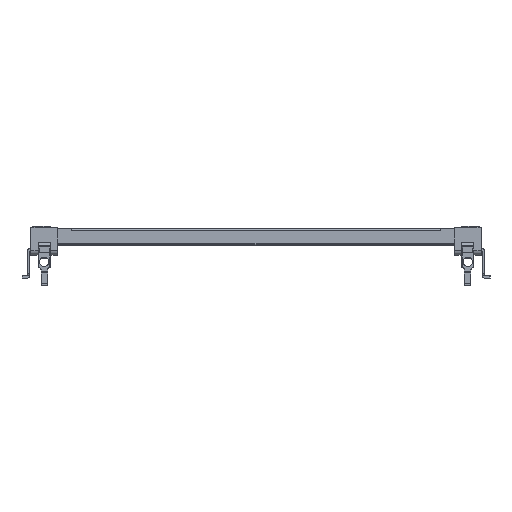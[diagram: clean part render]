
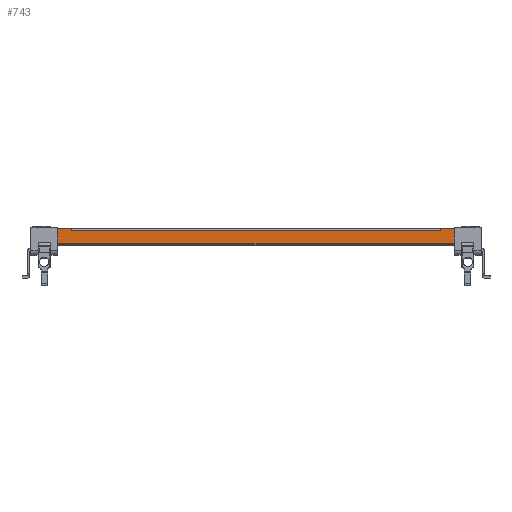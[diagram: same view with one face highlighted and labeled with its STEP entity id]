
A CAD part, front view. The second image highlights one B-rep face of the part: STEP entity #743.
In plain terms, the highlighted planar face has unit normal (0, -1, 0).
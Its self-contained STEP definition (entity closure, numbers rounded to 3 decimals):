
#75 = ORIENTED_EDGE ( 'NONE', *, *, #1768, .F. ) ;
#99 = EDGE_CURVE ( 'NONE', #9692, #5140, #7787, .T. ) ;
#481 = CARTESIAN_POINT ( 'NONE',  ( -303.5, -640., 3.5 ) ) ;
#599 = VECTOR ( 'NONE', #10260, 1000. ) ;
#743 = ADVANCED_FACE ( 'NONE', ( #10154 ), #8401, .F. ) ;
#840 = DIRECTION ( 'NONE',  ( 0., 0., 1. ) ) ;
#1064 = CARTESIAN_POINT ( 'NONE',  ( -283., -640., 26. ) ) ;
#1088 = VERTEX_POINT ( 'NONE', #9639 ) ;
#1297 = AXIS2_PLACEMENT_3D ( 'NONE', #7536, #6688, #840 ) ;
#1317 = LINE ( 'NONE', #2800, #7477 ) ;
#1412 = EDGE_CURVE ( 'NONE', #4876, #6664, #1317, .T. ) ;
#1570 = VECTOR ( 'NONE', #9596, 1000. ) ;
#1697 = ORIENTED_EDGE ( 'NONE', *, *, #5900, .F. ) ;
#1768 = EDGE_CURVE ( 'NONE', #9692, #4876, #2498, .T. ) ;
#2040 = LINE ( 'NONE', #9858, #3739 ) ;
#2389 = ORIENTED_EDGE ( 'NONE', *, *, #99, .T. ) ;
#2498 = LINE ( 'NONE', #4939, #4477 ) ;
#2505 = CARTESIAN_POINT ( 'NONE',  ( 303.5, -640., 28. ) ) ;
#2534 = EDGE_CURVE ( 'NONE', #6664, #9363, #3786, .T. ) ;
#2565 = VECTOR ( 'NONE', #2728, 1000. ) ;
#2728 = DIRECTION ( 'NONE',  ( 0., 0., 1. ) ) ;
#2800 = CARTESIAN_POINT ( 'NONE',  ( -303.5, -640., 28. ) ) ;
#2801 = LINE ( 'NONE', #9404, #599 ) ;
#3557 = ORIENTED_EDGE ( 'NONE', *, *, #2534, .F. ) ;
#3739 = VECTOR ( 'NONE', #6485, 1000. ) ;
#3786 = LINE ( 'NONE', #4584, #1570 ) ;
#4150 = CARTESIAN_POINT ( 'NONE',  ( 303.5, -640., 26. ) ) ;
#4220 = EDGE_CURVE ( 'NONE', #6037, #9363, #4824, .T. ) ;
#4477 = VECTOR ( 'NONE', #9981, 1000. ) ;
#4584 = CARTESIAN_POINT ( 'NONE',  ( 308., -640., 26. ) ) ;
#4630 = VECTOR ( 'NONE', #5812, 1000. ) ;
#4824 = LINE ( 'NONE', #1064, #2565 ) ;
#4876 = VERTEX_POINT ( 'NONE', #481 ) ;
#4939 = CARTESIAN_POINT ( 'NONE',  ( 308.45, -640., 3.5 ) ) ;
#5140 = VERTEX_POINT ( 'NONE', #4150 ) ;
#5478 = ORIENTED_EDGE ( 'NONE', *, *, #1412, .F. ) ;
#5812 = DIRECTION ( 'NONE',  ( 0., 0., 1. ) ) ;
#5900 = EDGE_CURVE ( 'NONE', #6037, #10652, #2801, .T. ) ;
#6037 = VERTEX_POINT ( 'NONE', #8754 ) ;
#6073 = CARTESIAN_POINT ( 'NONE',  ( 283., -640., 23.5 ) ) ;
#6085 = CARTESIAN_POINT ( 'NONE',  ( -303.5, -640., 26. ) ) ;
#6485 = DIRECTION ( 'NONE',  ( 1., 0., 0. ) ) ;
#6664 = VERTEX_POINT ( 'NONE', #6085 ) ;
#6688 = DIRECTION ( 'NONE',  ( 0., 1., 0. ) ) ;
#7049 = EDGE_CURVE ( 'NONE', #10652, #1088, #8578, .T. ) ;
#7359 = DIRECTION ( 'NONE',  ( 0., 0., 1. ) ) ;
#7381 = EDGE_LOOP ( 'NONE', ( #75, #2389, #9121, #10570, #1697, #8213, #3557, #5478 ) ) ;
#7477 = VECTOR ( 'NONE', #7359, 1000. ) ;
#7536 = CARTESIAN_POINT ( 'NONE',  ( -342.5, -640., 2.5 ) ) ;
#7787 = LINE ( 'NONE', #2505, #9776 ) ;
#8213 = ORIENTED_EDGE ( 'NONE', *, *, #4220, .T. ) ;
#8328 = CARTESIAN_POINT ( 'NONE',  ( -283., -640., 26. ) ) ;
#8401 = PLANE ( 'NONE',  #1297 ) ;
#8578 = LINE ( 'NONE', #10889, #4630 ) ;
#8754 = CARTESIAN_POINT ( 'NONE',  ( -283., -640., 23.5 ) ) ;
#9121 = ORIENTED_EDGE ( 'NONE', *, *, #10457, .F. ) ;
#9363 = VERTEX_POINT ( 'NONE', #8328 ) ;
#9404 = CARTESIAN_POINT ( 'NONE',  ( -283., -640., 23.5 ) ) ;
#9596 = DIRECTION ( 'NONE',  ( 1., 0., 0. ) ) ;
#9639 = CARTESIAN_POINT ( 'NONE',  ( 283., -640., 26. ) ) ;
#9692 = VERTEX_POINT ( 'NONE', #10505 ) ;
#9707 = DIRECTION ( 'NONE',  ( 0., 0., 1. ) ) ;
#9776 = VECTOR ( 'NONE', #9707, 1000. ) ;
#9858 = CARTESIAN_POINT ( 'NONE',  ( 308., -640., 26. ) ) ;
#9981 = DIRECTION ( 'NONE',  ( -1., 0., 0. ) ) ;
#10154 = FACE_OUTER_BOUND ( 'NONE', #7381, .T. ) ;
#10260 = DIRECTION ( 'NONE',  ( 1., 0., 0. ) ) ;
#10457 = EDGE_CURVE ( 'NONE', #1088, #5140, #2040, .T. ) ;
#10505 = CARTESIAN_POINT ( 'NONE',  ( 303.5, -640., 3.5 ) ) ;
#10570 = ORIENTED_EDGE ( 'NONE', *, *, #7049, .F. ) ;
#10652 = VERTEX_POINT ( 'NONE', #6073 ) ;
#10889 = CARTESIAN_POINT ( 'NONE',  ( 283., -640., 26. ) ) ;
